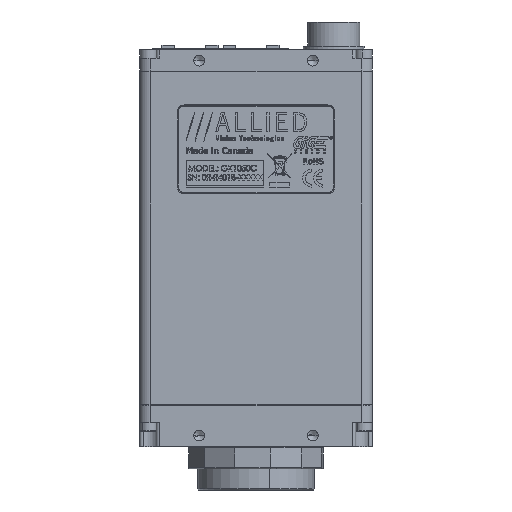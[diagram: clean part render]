
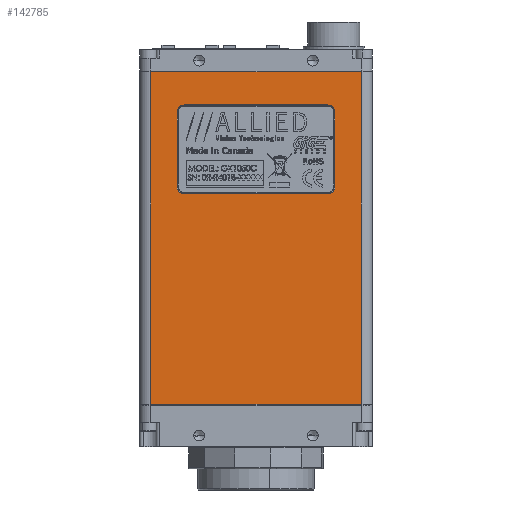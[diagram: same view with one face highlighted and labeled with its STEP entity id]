
A CAD part, front view. The second image highlights one B-rep face of the part: STEP entity #142785.
In plain terms, the highlighted planar face has unit normal (0, -1, 0).
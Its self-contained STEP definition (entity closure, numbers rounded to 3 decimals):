
#1157 = VERTEX_POINT ( 'NONE', #97505 ) ;
#4104 = ORIENTED_EDGE ( 'NONE', *, *, #122326, .T. ) ;
#7395 = EDGE_CURVE ( 'NONE', #8854, #8577, #142215, .T. ) ;
#8577 = VERTEX_POINT ( 'NONE', #119479 ) ;
#8854 = VERTEX_POINT ( 'NONE', #94369 ) ;
#13870 = VECTOR ( 'NONE', #60857, 1000. ) ;
#14376 = VECTOR ( 'NONE', #88337, 1000. ) ;
#16665 = ORIENTED_EDGE ( 'NONE', *, *, #72085, .T. ) ;
#16732 = LINE ( 'NONE', #158336, #101858 ) ;
#20087 = ORIENTED_EDGE ( 'NONE', *, *, #190540, .T. ) ;
#22505 = CARTESIAN_POINT ( 'NONE',  ( -18.034, -10.16, 28.893 ) ) ;
#22813 = ORIENTED_EDGE ( 'NONE', *, *, #83311, .T. ) ;
#23160 = CARTESIAN_POINT ( 'NONE',  ( -16.447, -10.16, 28.893 ) ) ;
#23227 = CIRCLE ( 'NONE', #193432, 1.587 ) ;
#23966 = EDGE_CURVE ( 'NONE', #94225, #98637, #175292, .T. ) ;
#26572 = CARTESIAN_POINT ( 'NONE',  ( 16.447, -10.16, 28.893 ) ) ;
#27500 = VERTEX_POINT ( 'NONE', #54954 ) ;
#27616 = EDGE_CURVE ( 'NONE', #126024, #27500, #93469, .T. ) ;
#28745 = LINE ( 'NONE', #94454, #68662 ) ;
#30078 = CARTESIAN_POINT ( 'NONE',  ( -18.034, -10.16, 11.748 ) ) ;
#31897 = FACE_OUTER_BOUND ( 'NONE', #154491, .T. ) ;
#32108 = CARTESIAN_POINT ( 'NONE',  ( 24.13, -10.16, -92.399 ) ) ;
#32693 = ORIENTED_EDGE ( 'NONE', *, *, #125753, .T. ) ;
#33608 = VERTEX_POINT ( 'NONE', #22505 ) ;
#40362 = DIRECTION ( 'NONE',  ( 1., 0., 0. ) ) ;
#43702 = DIRECTION ( 'NONE',  ( 1., 0., 0. ) ) ;
#45846 = DIRECTION ( 'NONE',  ( 1., 0., 0. ) ) ;
#46129 = DIRECTION ( 'NONE',  ( 0., 1., 0. ) ) ;
#46574 = CARTESIAN_POINT ( 'NONE',  ( 16.447, -10.16, 11.748 ) ) ;
#46755 = CARTESIAN_POINT ( 'NONE',  ( 24.13, -10.16, -92.399 ) ) ;
#49247 = DIRECTION ( 'NONE',  ( 1., 0., 0. ) ) ;
#51018 = ORIENTED_EDGE ( 'NONE', *, *, #108514, .T. ) ;
#54954 = CARTESIAN_POINT ( 'NONE',  ( 16.447, -10.16, 10.16 ) ) ;
#55675 = AXIS2_PLACEMENT_3D ( 'NONE', #46574, #46129, #45846 ) ;
#59335 = CARTESIAN_POINT ( 'NONE',  ( 18.034, -10.16, 28.893 ) ) ;
#60857 = DIRECTION ( 'NONE',  ( 0., 0., -1. ) ) ;
#61075 = DIRECTION ( 'NONE',  ( 0., 1., 0. ) ) ;
#61504 = VERTEX_POINT ( 'NONE', #30078 ) ;
#62775 = AXIS2_PLACEMENT_3D ( 'NONE', #32108, #150704, #49247 ) ;
#68662 = VECTOR ( 'NONE', #111498, 1000. ) ;
#68686 = VERTEX_POINT ( 'NONE', #59335 ) ;
#71390 = DIRECTION ( 'NONE',  ( 1., 0., 0. ) ) ;
#72085 = EDGE_CURVE ( 'NONE', #68686, #126024, #154943, .T. ) ;
#72678 = CARTESIAN_POINT ( 'NONE',  ( 24.13, -10.16, 30.48 ) ) ;
#78839 = VECTOR ( 'NONE', #71390, 1000. ) ;
#79876 = AXIS2_PLACEMENT_3D ( 'NONE', #162242, #61075, #178927 ) ;
#80974 = DIRECTION ( 'NONE',  ( 0., 0., 1. ) ) ;
#82689 = PLANE ( 'NONE',  #62775 ) ;
#83311 = EDGE_CURVE ( 'NONE', #157937, #94225, #201996, .T. ) ;
#88337 = DIRECTION ( 'NONE',  ( 0., 0., -1. ) ) ;
#88556 = VERTEX_POINT ( 'NONE', #184378 ) ;
#88852 = CARTESIAN_POINT ( 'NONE',  ( 18.034, -10.16, -92.399 ) ) ;
#93469 = CIRCLE ( 'NONE', #55675, 1.587 ) ;
#94225 = VERTEX_POINT ( 'NONE', #126960 ) ;
#94369 = CARTESIAN_POINT ( 'NONE',  ( -16.447, -10.16, 30.48 ) ) ;
#94454 = CARTESIAN_POINT ( 'NONE',  ( 24.13, -10.16, -38.1 ) ) ;
#95168 = ORIENTED_EDGE ( 'NONE', *, *, #202553, .T. ) ;
#97205 = ORIENTED_EDGE ( 'NONE', *, *, #116132, .T. ) ;
#97505 = CARTESIAN_POINT ( 'NONE',  ( -24.13, -10.16, -38.1 ) ) ;
#98637 = VERTEX_POINT ( 'NONE', #149134 ) ;
#101858 = VECTOR ( 'NONE', #174988, 1000. ) ;
#104287 = LINE ( 'NONE', #178711, #13870 ) ;
#107022 = DIRECTION ( 'NONE',  ( -1., 0., 0. ) ) ;
#108514 = EDGE_CURVE ( 'NONE', #27500, #88556, #207927, .T. ) ;
#111498 = DIRECTION ( 'NONE',  ( 1., 0., 0. ) ) ;
#113834 = ORIENTED_EDGE ( 'NONE', *, *, #7395, .T. ) ;
#115145 = CIRCLE ( 'NONE', #79876, 1.587 ) ;
#116132 = EDGE_CURVE ( 'NONE', #98637, #1157, #104287, .T. ) ;
#117578 = EDGE_CURVE ( 'NONE', #8577, #68686, #23227, .T. ) ;
#119479 = CARTESIAN_POINT ( 'NONE',  ( 16.447, -10.16, 30.48 ) ) ;
#119589 = CARTESIAN_POINT ( 'NONE',  ( 18.034, -10.16, 11.748 ) ) ;
#122326 = EDGE_CURVE ( 'NONE', #88556, #61504, #115145, .T. ) ;
#125753 = EDGE_CURVE ( 'NONE', #1157, #157937, #28745, .T. ) ;
#126024 = VERTEX_POINT ( 'NONE', #119589 ) ;
#126542 = ORIENTED_EDGE ( 'NONE', *, *, #27616, .T. ) ;
#126960 = CARTESIAN_POINT ( 'NONE',  ( 24.13, -10.16, 38.1 ) ) ;
#130360 = CIRCLE ( 'NONE', #186226, 1.587 ) ;
#130987 = VECTOR ( 'NONE', #164108, 1000. ) ;
#140379 = CARTESIAN_POINT ( 'NONE',  ( 24.13, -10.16, 10.16 ) ) ;
#142045 = DIRECTION ( 'NONE',  ( 0., 1., 0. ) ) ;
#142215 = LINE ( 'NONE', #72678, #78839 ) ;
#142785 = ADVANCED_FACE ( 'NONE', ( #31897, #205404 ), #82689, .T. ) ;
#145342 = DIRECTION ( 'NONE',  ( 0., 1., 0. ) ) ;
#149134 = CARTESIAN_POINT ( 'NONE',  ( -24.13, -10.16, 38.1 ) ) ;
#150704 = DIRECTION ( 'NONE',  ( 0., -1., 0. ) ) ;
#154491 = EDGE_LOOP ( 'NONE', ( #162025, #97205, #32693, #22813 ) ) ;
#154943 = LINE ( 'NONE', #88852, #14376 ) ;
#156725 = ORIENTED_EDGE ( 'NONE', *, *, #117578, .T. ) ;
#157937 = VERTEX_POINT ( 'NONE', #162123 ) ;
#158098 = VECTOR ( 'NONE', #80974, 1000. ) ;
#158336 = CARTESIAN_POINT ( 'NONE',  ( -18.034, -10.16, -92.399 ) ) ;
#162025 = ORIENTED_EDGE ( 'NONE', *, *, #23966, .T. ) ;
#162123 = CARTESIAN_POINT ( 'NONE',  ( 24.13, -10.16, -38.1 ) ) ;
#162242 = CARTESIAN_POINT ( 'NONE',  ( -16.447, -10.16, 11.748 ) ) ;
#164108 = DIRECTION ( 'NONE',  ( -1., 0., 0. ) ) ;
#165301 = CARTESIAN_POINT ( 'NONE',  ( 24.13, -10.16, 38.1 ) ) ;
#174988 = DIRECTION ( 'NONE',  ( 0., 0., 1. ) ) ;
#175292 = LINE ( 'NONE', #165301, #130987 ) ;
#178711 = CARTESIAN_POINT ( 'NONE',  ( -24.13, -10.16, -92.399 ) ) ;
#178927 = DIRECTION ( 'NONE',  ( 1., 0., 0. ) ) ;
#184378 = CARTESIAN_POINT ( 'NONE',  ( -16.447, -10.16, 10.16 ) ) ;
#186226 = AXIS2_PLACEMENT_3D ( 'NONE', #23160, #142045, #40362 ) ;
#190540 = EDGE_CURVE ( 'NONE', #61504, #33608, #16732, .T. ) ;
#193432 = AXIS2_PLACEMENT_3D ( 'NONE', #26572, #145342, #43702 ) ;
#201996 = LINE ( 'NONE', #46755, #158098 ) ;
#202553 = EDGE_CURVE ( 'NONE', #33608, #8854, #130360, .T. ) ;
#202880 = VECTOR ( 'NONE', #107022, 1000. ) ;
#205404 = FACE_BOUND ( 'NONE', #209804, .T. ) ;
#207927 = LINE ( 'NONE', #140379, #202880 ) ;
#209804 = EDGE_LOOP ( 'NONE', ( #95168, #113834, #156725, #16665, #126542, #51018, #4104, #20087 ) ) ;
